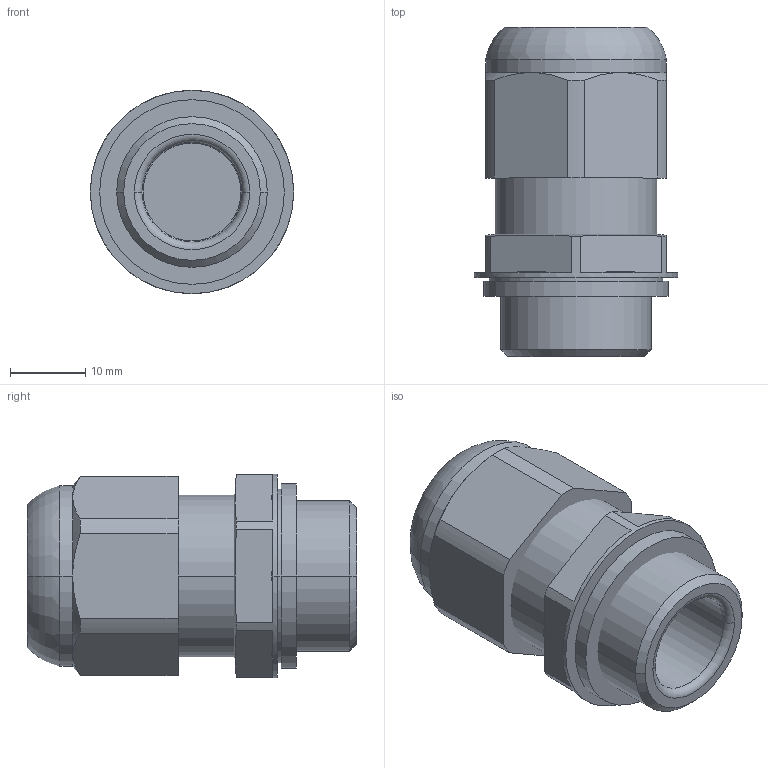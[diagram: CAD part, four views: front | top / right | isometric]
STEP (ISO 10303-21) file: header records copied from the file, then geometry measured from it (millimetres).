
FILE_DESCRIPTION (( 'STEP AP203' ), '1' );
FILE_NAME ('8161_5-M20-13-ap203.STEP', '2013-07-11T09:14:33', ( 'Admin' ), ( 'R. STAHL AG' ), 'SwSTEP 2.0', 'SolidWorks 2013', '' );
FILE_SCHEMA (( 'CONFIG_CONTROL_DESIGN' ));
Length unit declared in the file: millimetre
Products named in the file (6): 81_610_77_01_0_Stutzen_Vereinfacht; 81_610_77_01_0_Dichtung; 81_610_77_01_0_Hutmutter_Vereinfacht; Anschlussgewindedichtung_M20; Staubschutzkappe_M20; 8161_5-M20-13-ap203
Assembly tree (5 placements, depth 2):
  8161_5-M20-13-ap203
    81_610_77_01_0_Stutzen_Vereinfacht
    81_610_77_01_0_Dichtung
    81_610_77_01_0_Hutmutter_Vereinfacht
    Anschlussgewindedichtung_M20
    Staubschutzkappe_M20
Bounding box: 27 x 43.69 x 27 mm (x, y, z)
Volume: 12008.5 mm3; surface area: 9436 mm2
Topology: 5 solids, 5 shells, 94 faces, 210 edges, 127 vertices
Faces by surface type: cylinder 34, cone 27, plane 23, torus 10
Entity records: 3333 total; most frequent: CARTESIAN_POINT 566, DIRECTION 497, ORIENTED_EDGE 420, AXIS2_PLACEMENT_3D 212, EDGE_CURVE 210, VERTEX_POINT 127, CIRCLE 110, EDGE_LOOP 103
